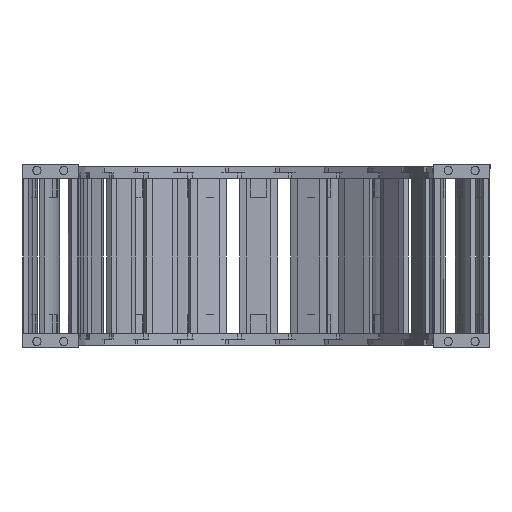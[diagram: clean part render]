
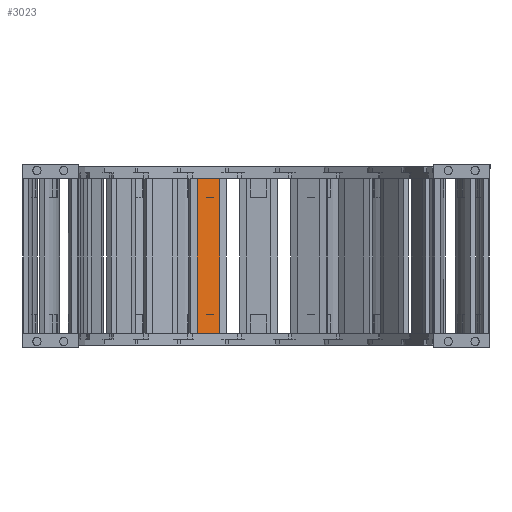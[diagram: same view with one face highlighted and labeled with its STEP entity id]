
A CAD part, left-side view. The second image highlights one B-rep face of the part: STEP entity #3023.
In plain terms, the highlighted planar face has unit normal (-0.963, -0.271, 0) as drawn and (0, 1, 0) by its records, which use the part's own axes.
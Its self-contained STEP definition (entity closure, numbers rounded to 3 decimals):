
#2766=DIRECTION('',(1.,0.,0.));
#2767=VECTOR('',#2766,23.);
#2768=CARTESIAN_POINT('',(-11.5,3.,137.8));
#2769=LINE('',#2768,#2767);
#2815=DIRECTION('',(0.,0.,-1.));
#2816=VECTOR('',#2815,150.3);
#2817=CARTESIAN_POINT('',(11.5,3.,137.8));
#2818=LINE('',#2817,#2816);
#2837=DIRECTION('',(-1.,0.,0.));
#2838=VECTOR('',#2837,23.);
#2839=CARTESIAN_POINT('',(11.5,3.,-12.5));
#2840=LINE('',#2839,#2838);
#2851=DIRECTION('',(0.,0.,-1.));
#2852=VECTOR('',#2851,150.3);
#2853=CARTESIAN_POINT('',(-11.5,3.,137.8));
#2854=LINE('',#2853,#2852);
#2878=CARTESIAN_POINT('',(11.5,3.,137.8));
#2879=VERTEX_POINT('',#2878);
#2882=CARTESIAN_POINT('',(-11.5,3.,137.8));
#2883=VERTEX_POINT('',#2882);
#2890=CARTESIAN_POINT('',(11.5,3.,-12.5));
#2891=VERTEX_POINT('',#2890);
#2892=CARTESIAN_POINT('',(-11.5,3.,-12.5));
#2893=VERTEX_POINT('',#2892);
#3011=CARTESIAN_POINT('',(15.5,3.,87.8));
#3012=DIRECTION('',(0.,1.,0.));
#3013=DIRECTION('',(-1.,0.,0.));
#3014=AXIS2_PLACEMENT_3D('',#3011,#3012,#3013);
#3015=PLANE('',#3014);
#3017=ORIENTED_EDGE('',*,*,#3016,.T.);
#3018=ORIENTED_EDGE('',*,*,#2995,.F.);
#3019=ORIENTED_EDGE('',*,*,#2975,.F.);
#3020=ORIENTED_EDGE('',*,*,#2907,.F.);
#3021=EDGE_LOOP('',(#3017,#3018,#3019,#3020));
#3022=FACE_OUTER_BOUND('',#3021,.F.);
#3023=ADVANCED_FACE('',(#3022),#3015,.T.);
#2907=EDGE_CURVE('',#2883,#2879,#2769,.T.);
#2975=EDGE_CURVE('',#2879,#2891,#2818,.T.);
#2995=EDGE_CURVE('',#2891,#2893,#2840,.T.);
#3016=EDGE_CURVE('',#2883,#2893,#2854,.T.);
